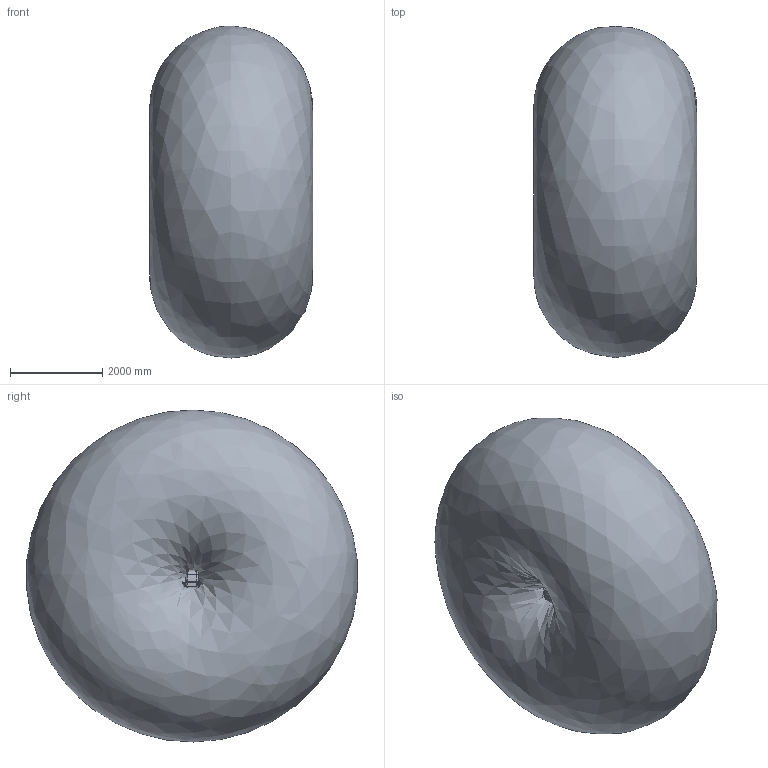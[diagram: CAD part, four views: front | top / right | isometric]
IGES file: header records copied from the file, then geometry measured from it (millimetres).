
Start section: 3D InterOp IGES (v. 2022 1.0.0), Spatial Corp. Copyright (c) 1999-2020.
Global section: file name: M710ID_70.igs; native system: Spatial Corp.; preprocessor: 3D InterOp GENERIC/IGES 3.0; author: Noname; organization: Noname; date: 20250625.154343; units: millimetre
Bounding box: 5227.42 x 7168.88 x 7188.62 mm (x, y, z)
Surface area: 133137638.1 mm2 (no closed solid volume)
Topology: 0 solids, 0 shells, 1868 faces, 9712 edges, 9619 vertices
Faces by surface type: revolution 979, extrusion 596, bspline 291, offset 2
